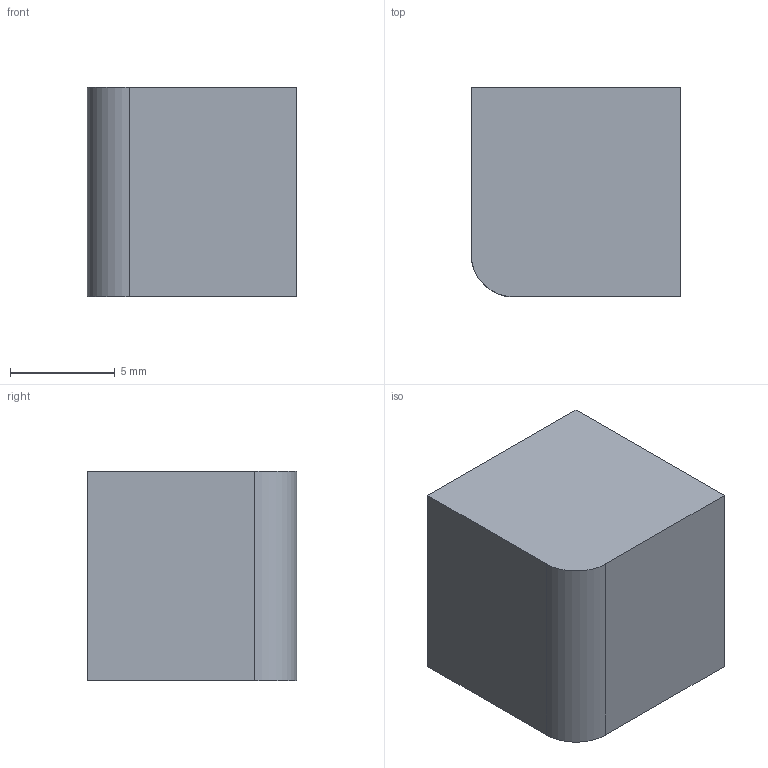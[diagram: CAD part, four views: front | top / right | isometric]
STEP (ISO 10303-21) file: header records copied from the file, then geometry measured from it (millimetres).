
FILE_DESCRIPTION(('Open CASCADE Model'),'2;1');
FILE_NAME('Open CASCADE Shape Model','2026-09-02T22:40:03',('Author'),( 'Open CASCADE'),'Open CASCADE STEP processor 7.8','Open CASCADE 7.8' ,'Unknown');
FILE_SCHEMA(('AUTOMOTIVE_DESIGN { 1 0 10303 214 1 1 1 1 }'));
Length unit declared in the file: millimetre
Products named in the file (1): Open CASCADE STEP translator 7.8 11
Bounding box: 10 x 10 x 10 mm (x, y, z)
Volume: 991.4 mm3; surface area: 589.7 mm2
Topology: 1 solids, 1 shells, 7 faces, 15 edges, 10 vertices
Faces by surface type: plane 6, cylinder 1
Entity records: 396 total; most frequent: CARTESIAN_POINT 63, DIRECTION 63, LINE 41, VECTOR 41, ORIENTED_EDGE 30, PCURVE 30, DEFINITIONAL_REPRESENTATION 30, EDGE_CURVE 15
